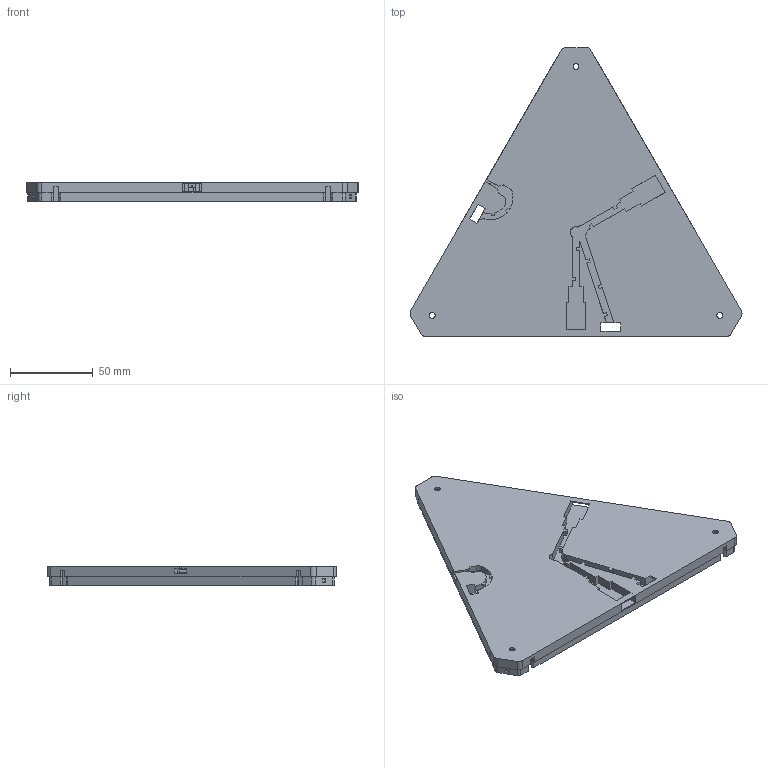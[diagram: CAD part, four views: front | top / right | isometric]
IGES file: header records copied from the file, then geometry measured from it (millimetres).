
Global section: file name: Tile Bottom; native system: Autodesk Inventor 2017; preprocessor: unknown; author: cdrsk; date: 20181227.184142; units: millimetre
Bounding box: 200.65 x 174.63 x 11.4 mm (x, y, z)
Volume: 115116.3 mm3; surface area: 60288.9 mm2
Topology: 1 solids, 1 shells, 376 faces, 1076 edges, 716 vertices
Faces by surface type: bspline 376
